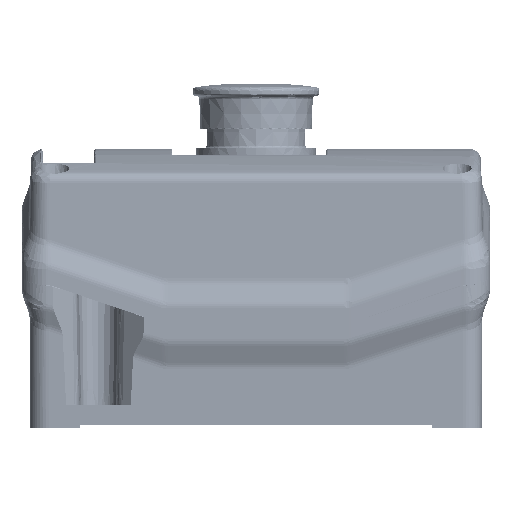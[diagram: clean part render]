
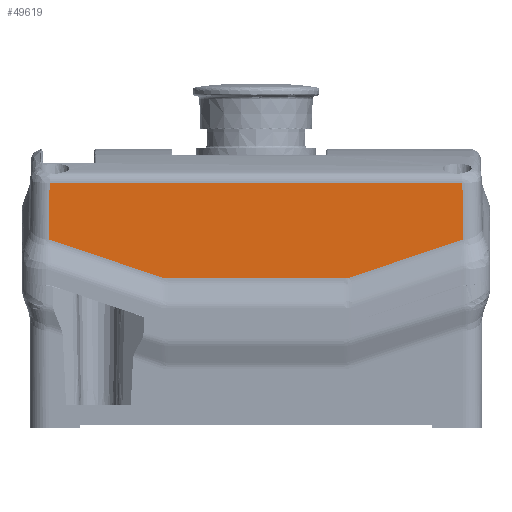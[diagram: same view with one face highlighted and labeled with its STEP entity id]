
A CAD part, left-side view. The second image highlights one B-rep face of the part: STEP entity #49619.
In plain terms, the highlighted planar face has unit normal (-1, 0, 0.018).
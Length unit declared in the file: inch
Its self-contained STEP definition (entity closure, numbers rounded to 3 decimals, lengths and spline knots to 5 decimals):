
#4050 = CARTESIAN_POINT ( 'NONE',  ( -1.86405, 2.67706, 2.40853 ) ) ;
#34074 = CARTESIAN_POINT ( 'NONE',  ( -1.85114, 2.68118, 3.14791 ) ) ;
#38021 = B_SPLINE_CURVE_WITH_KNOTS ( 'NONE', 3,
 ( #507536, #694535, #194308, #633980 ),
 .UNSPECIFIED., .F., .F.,
 ( 4, 4 ),
 ( 0., 1. ),
 .UNSPECIFIED. ) ;
#49619 = ADVANCED_FACE ( 'NONE', ( #82553 ), #78850, .T. ) ;
#68408 = VERTEX_POINT ( 'NONE', #457341 ) ;
#78850 = PLANE ( 'NONE',  #547086 ) ;
#78949 = CARTESIAN_POINT ( 'NONE',  ( -1.86401, -2.69405, 2.41053 ) ) ;
#82553 = FACE_OUTER_BOUND ( 'NONE', #164507, .T. ) ;
#122246 = EDGE_CURVE ( 'NONE', #788036, #272980, #681430, .T. ) ;
#142228 = LINE ( 'NONE', #34074, #771623 ) ;
#161422 = DIRECTION ( 'NONE',  ( 0., -1., 0. ) ) ;
#161907 = CARTESIAN_POINT ( 'NONE',  ( -1.8728, 1.14132, 1.90703 ) ) ;
#164507 = EDGE_LOOP ( 'NONE', ( #411688, #780433, #376269, #202465, #779997, #607195, #654046, #199359, #667867, #455056 ) ) ;
#166799 = CARTESIAN_POINT ( 'NONE',  ( -1.87258, 1.22042, 1.91982 ) ) ;
#178112 = DIRECTION ( 'NONE',  ( -0.006, -0.948, -0.319 ) ) ;
#189068 = CARTESIAN_POINT ( 'NONE',  ( -1.85114, 2.68118, 3.14791 ) ) ;
#194308 = CARTESIAN_POINT ( 'NONE',  ( -1.87273, -1.1949, 1.91129 ) ) ;
#199359 = ORIENTED_EDGE ( 'NONE', *, *, #206520, .T. ) ;
#202465 = ORIENTED_EDGE ( 'NONE', *, *, #229973, .T. ) ;
#203471 = VERTEX_POINT ( 'NONE', #743175 ) ;
#206520 = EDGE_CURVE ( 'NONE', #68408, #793763, #38021, .T. ) ;
#208866 = EDGE_CURVE ( 'NONE', #793763, #203471, #546697, .T. ) ;
#212483 = LINE ( 'NONE', #318303, #694401 ) ;
#229973 = EDGE_CURVE ( 'NONE', #288280, #267021, #498171, .T. ) ;
#241225 = CARTESIAN_POINT ( 'NONE',  ( -1.86421, 2.64338, 2.39905 ) ) ;
#260046 = EDGE_CURVE ( 'NONE', #272980, #68408, #719720, .T. ) ;
#267021 = VERTEX_POINT ( 'NONE', #570900 ) ;
#271337 = CARTESIAN_POINT ( 'NONE',  ( -1.845, 0., 3.49974 ) ) ;
#272980 = VERTEX_POINT ( 'NONE', #275716 ) ;
#275716 = CARTESIAN_POINT ( 'NONE',  ( -1.8728, 1.14132, 1.90703 ) ) ;
#284295 = CARTESIAN_POINT ( 'NONE',  ( -1.86401, -2.69405, 2.41053 ) ) ;
#288280 = VERTEX_POINT ( 'NONE', #410016 ) ;
#291624 = LINE ( 'NONE', #294503, #586695 ) ;
#294503 = CARTESIAN_POINT ( 'NONE',  ( -1.86401, -2.69405, 2.41053 ) ) ;
#318303 = CARTESIAN_POINT ( 'NONE',  ( -1.85114, 2.94, 3.14791 ) ) ;
#329284 = CARTESIAN_POINT ( 'NONE',  ( -1.86422, -2.6433, 2.39902 ) ) ;
#370227 = EDGE_CURVE ( 'NONE', #735982, #550976, #291624, .T. ) ;
#376269 = ORIENTED_EDGE ( 'NONE', *, *, #807098, .T. ) ;
#379078 = EDGE_CURVE ( 'NONE', #203471, #735982, #609746, .T. ) ;
#397792 = DIRECTION ( 'NONE',  ( 0.017, 0., 1. ) ) ;
#410016 = CARTESIAN_POINT ( 'NONE',  ( -1.86401, 2.69405, 2.41053 ) ) ;
#411688 = ORIENTED_EDGE ( 'NONE', *, *, #370227, .T. ) ;
#411956 = CARTESIAN_POINT ( 'NONE',  ( -1.87258, 1.22042, 1.91982 ) ) ;
#425290 = CARTESIAN_POINT ( 'NONE',  ( -1.8728, 0., 1.90703 ) ) ;
#442864 = LINE ( 'NONE', #241225, #757622 ) ;
#455056 = ORIENTED_EDGE ( 'NONE', *, *, #379078, .T. ) ;
#455634 = CARTESIAN_POINT ( 'NONE',  ( -1.86405, -2.67681, 2.4085 ) ) ;
#457341 = CARTESIAN_POINT ( 'NONE',  ( -1.8728, -1.14132, 1.90703 ) ) ;
#476729 = DIRECTION ( 'NONE',  ( -0.017, 0.017, -1. ) ) ;
#498171 = B_SPLINE_CURVE_WITH_KNOTS ( 'NONE', 3,
 ( #575851, #4050, #512596, #638981 ),
 .UNSPECIFIED., .F., .F.,
 ( 4, 4 ),
 ( 0., 1. ),
 .UNSPECIFIED. ) ;
#507536 = CARTESIAN_POINT ( 'NONE',  ( -1.8728, -1.14132, 1.90703 ) ) ;
#512596 = CARTESIAN_POINT ( 'NONE',  ( -1.86412, 2.66017, 2.4047 ) ) ;
#516206 = CARTESIAN_POINT ( 'NONE',  ( -1.86412, -2.65989, 2.40466 ) ) ;
#538403 = CARTESIAN_POINT ( 'NONE',  ( -1.8728, 1.16859, 1.90703 ) ) ;
#546697 = LINE ( 'NONE', #749311, #694220 ) ;
#547086 = AXIS2_PLACEMENT_3D ( 'NONE', #271337, #774439, #397792 ) ;
#550976 = VERTEX_POINT ( 'NONE', #610102 ) ;
#552512 = VECTOR ( 'NONE', #161422, 39.37008 ) ;
#564460 = CARTESIAN_POINT ( 'NONE',  ( -1.87258, -1.22042, 1.91982 ) ) ;
#568503 = DIRECTION ( 'NONE',  ( 0., -1., 0. ) ) ;
#570900 = CARTESIAN_POINT ( 'NONE',  ( -1.86421, 2.64338, 2.39905 ) ) ;
#575851 = CARTESIAN_POINT ( 'NONE',  ( -1.86401, 2.69405, 2.41053 ) ) ;
#582881 = EDGE_CURVE ( 'NONE', #267021, #788036, #442864, .T. ) ;
#586695 = VECTOR ( 'NONE', #737055, 39.37008 ) ;
#607195 = ORIENTED_EDGE ( 'NONE', *, *, #122246, .T. ) ;
#609746 = B_SPLINE_CURVE_WITH_KNOTS ( 'NONE', 3,
 ( #329284, #516206, #455634, #78949 ),
 .UNSPECIFIED., .F., .F.,
 ( 4, 4 ),
 ( 0., 1. ),
 .UNSPECIFIED. ) ;
#610102 = CARTESIAN_POINT ( 'NONE',  ( -1.85114, -2.68118, 3.14791 ) ) ;
#633980 = CARTESIAN_POINT ( 'NONE',  ( -1.87258, -1.22042, 1.91982 ) ) ;
#638981 = CARTESIAN_POINT ( 'NONE',  ( -1.86421, 2.64338, 2.39905 ) ) ;
#654046 = ORIENTED_EDGE ( 'NONE', *, *, #260046, .T. ) ;
#667867 = ORIENTED_EDGE ( 'NONE', *, *, #208866, .T. ) ;
#681430 = B_SPLINE_CURVE_WITH_KNOTS ( 'NONE', 3,
 ( #411956, #788581, #538403, #161907 ),
 .UNSPECIFIED., .F., .F.,
 ( 4, 4 ),
 ( 0., 1. ),
 .UNSPECIFIED. ) ;
#687672 = EDGE_CURVE ( 'NONE', #794591, #550976, #212483, .T. ) ;
#694220 = VECTOR ( 'NONE', #812637, 39.37008 ) ;
#694401 = VECTOR ( 'NONE', #568503, 39.37008 ) ;
#694535 = CARTESIAN_POINT ( 'NONE',  ( -1.8728, -1.16853, 1.90703 ) ) ;
#719720 = LINE ( 'NONE', #425290, #552512 ) ;
#735982 = VERTEX_POINT ( 'NONE', #284295 ) ;
#737055 = DIRECTION ( 'NONE',  ( 0.017, 0.017, 1. ) ) ;
#743175 = CARTESIAN_POINT ( 'NONE',  ( -1.86422, -2.6433, 2.39902 ) ) ;
#749311 = CARTESIAN_POINT ( 'NONE',  ( -1.87258, -1.22042, 1.91982 ) ) ;
#757622 = VECTOR ( 'NONE', #178112, 39.37008 ) ;
#771623 = VECTOR ( 'NONE', #476729, 39.37008 ) ;
#774439 = DIRECTION ( 'NONE',  ( -1., 0., 0.017 ) ) ;
#779997 = ORIENTED_EDGE ( 'NONE', *, *, #582881, .T. ) ;
#780433 = ORIENTED_EDGE ( 'NONE', *, *, #687672, .F. ) ;
#788036 = VERTEX_POINT ( 'NONE', #166799 ) ;
#788581 = CARTESIAN_POINT ( 'NONE',  ( -1.87273, 1.19496, 1.91129 ) ) ;
#793763 = VERTEX_POINT ( 'NONE', #564460 ) ;
#794591 = VERTEX_POINT ( 'NONE', #189068 ) ;
#807098 = EDGE_CURVE ( 'NONE', #794591, #288280, #142228, .T. ) ;
#812637 = DIRECTION ( 'NONE',  ( 0.006, -0.948, 0.319 ) ) ;
